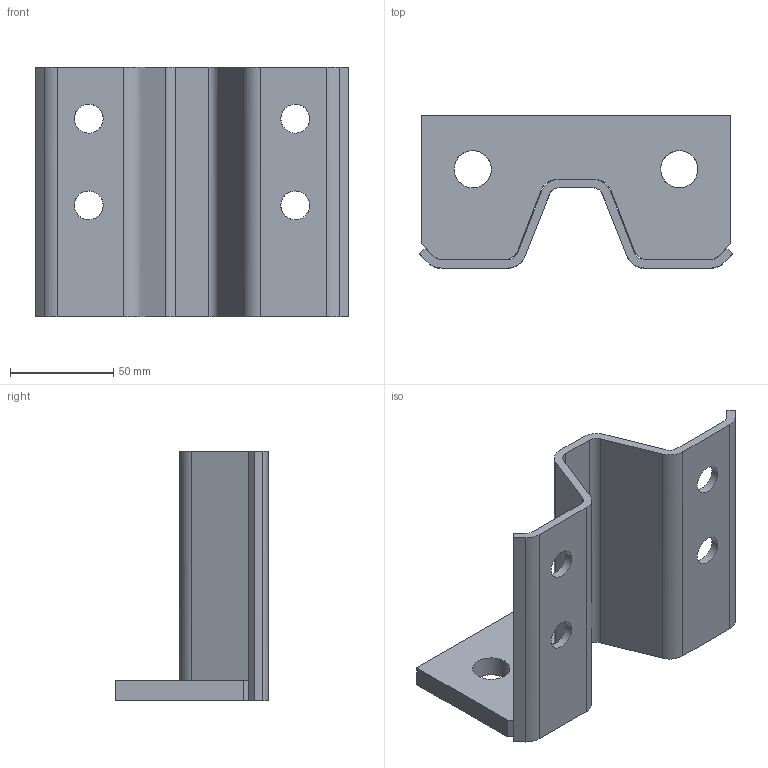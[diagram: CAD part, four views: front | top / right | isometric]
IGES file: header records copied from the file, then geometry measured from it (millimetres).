
Global section: file name: ZB140W100; native system: Autodesk RealDWG; preprocessor: Autodesk Translation Framework DWG producer (atf_dwg_producer); organization: unknown; date: 20230703.112451; units: centimetre
Bounding box: 151.72 x 74 x 121 mm (x, y, z)
Volume: 176906.5 mm3; surface area: 73149 mm2
Topology: 2 solids, 2 shells, 54 faces, 160 edges, 110 vertices
Faces by surface type: bspline 54
